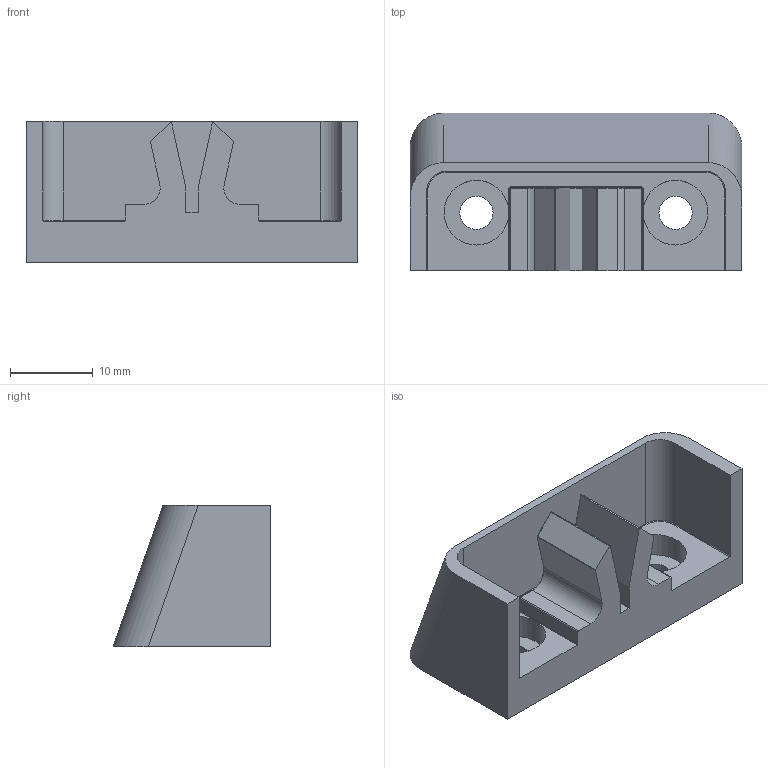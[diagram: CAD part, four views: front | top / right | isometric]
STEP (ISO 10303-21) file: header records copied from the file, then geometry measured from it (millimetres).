
FILE_DESCRIPTION (( 'STEP AP214' ), '1' );
FILE_NAME ('L19166-mobile.step', '2024-12-03T16:23:04', ( '' ), ( '' ), 'SwSTEP 2.0', 'SolidWorks 2023', '' );
FILE_SCHEMA (( 'AUTOMOTIVE_DESIGN' ));
Length unit declared in the file: millimetre
Products named in the file (1): L19166-mobile
Bounding box: 40 x 19 x 17 mm (x, y, z)
Volume: 6124.7 mm3; surface area: 4126.8 mm2
Topology: 1 solids, 1 shells, 73 faces, 182 edges, 105 vertices
Faces by surface type: cylinder 35, plane 26, sphere 6, torus 6
Full cylindrical faces by diameter (mm): 4 x2, 7.8 x2
Entity records: 2100 total; most frequent: DIRECTION 375, CARTESIAN_POINT 373, ORIENTED_EDGE 342, EDGE_CURVE 171, AXIS2_PLACEMENT_3D 138, VERTEX_POINT 104, VECTOR 99, LINE 99
